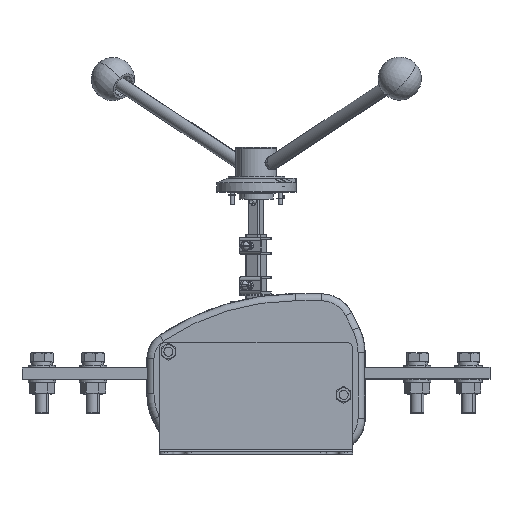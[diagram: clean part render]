
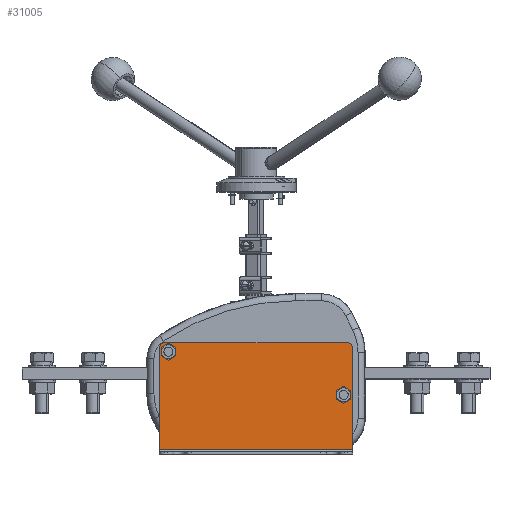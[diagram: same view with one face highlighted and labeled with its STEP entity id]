
A CAD part, top view. The second image highlights one B-rep face of the part: STEP entity #31005.
In plain terms, the highlighted planar face has unit normal (0, 0, 1).
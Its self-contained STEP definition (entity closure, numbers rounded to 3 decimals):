
#8137 = DIRECTION ( 'NONE',  ( 0., 0., 1. ) ) ;
#8685 = DIRECTION ( 'NONE',  ( 1., 0., 0. ) ) ;
#8686 = VECTOR ( 'NONE', #8685, 1000. ) ;
#8687 = CARTESIAN_POINT ( 'NONE',  ( -85., -67., 46.7 ) ) ;
#8695 = LINE ( 'NONE', #8687, #8686 ) ;
#8739 = CARTESIAN_POINT ( 'NONE',  ( 85., -67., 46.7 ) ) ;
#8740 = CARTESIAN_POINT ( 'NONE',  ( -85., -67., 46.7 ) ) ;
#8869 = DIRECTION ( 'NONE',  ( 0., 1., 0. ) ) ;
#8919 = CARTESIAN_POINT ( 'NONE',  ( 85., 22., 46.7 ) ) ;
#9071 = CARTESIAN_POINT ( 'NONE',  ( 77., -23.25, 46.7 ) ) ;
#9091 = CIRCLE ( 'NONE', #9172, 4.25 ) ;
#9092 = CARTESIAN_POINT ( 'NONE',  ( -80., 22., 46.7 ) ) ;
#9096 = CARTESIAN_POINT ( 'NONE',  ( -80., 27., 46.7 ) ) ;
#9106 = DIRECTION ( 'NONE',  ( 0., -1., 0. ) ) ;
#9107 = VECTOR ( 'NONE', #9106, 1000. ) ;
#9108 = CARTESIAN_POINT ( 'NONE',  ( -85., 27., 46.7 ) ) ;
#9109 = LINE ( 'NONE', #9108, #9107 ) ;
#9111 = CARTESIAN_POINT ( 'NONE',  ( 80., 27., 46.7 ) ) ;
#9119 = CARTESIAN_POINT ( 'NONE',  ( -85., 22., 46.7 ) ) ;
#9121 = CIRCLE ( 'NONE', #9176, 4.25 ) ;
#9122 = CARTESIAN_POINT ( 'NONE',  ( -77., 19., 46.7 ) ) ;
#9123 = CARTESIAN_POINT ( 'NONE',  ( -77., 14.75, 46.7 ) ) ;
#9124 = DIRECTION ( 'NONE',  ( 0., 1., 0. ) ) ;
#9125 = DIRECTION ( 'NONE',  ( 0., 0., 1. ) ) ;
#9133 = AXIS2_PLACEMENT_3D ( 'NONE', #9092, #9125, #9124 ) ;
#9138 = CIRCLE ( 'NONE', #9133, 5. ) ;
#9152 = DIRECTION ( 'NONE',  ( 0., -1., 0. ) ) ;
#9153 = DIRECTION ( 'NONE',  ( 0., -1., 0. ) ) ;
#9154 = VECTOR ( 'NONE', #9153, 1000. ) ;
#9155 = CARTESIAN_POINT ( 'NONE',  ( 85., 27., 46.7 ) ) ;
#9156 = LINE ( 'NONE', #9155, #9154 ) ;
#9158 = DIRECTION ( 'NONE',  ( 0., 1., 0. ) ) ;
#9159 = DIRECTION ( 'NONE',  ( 0., 0., 1. ) ) ;
#9160 = CARTESIAN_POINT ( 'NONE',  ( -77., 19., 46.7 ) ) ;
#9161 = AXIS2_PLACEMENT_3D ( 'NONE', #9160, #9159, #9158 ) ;
#9162 = CIRCLE ( 'NONE', #9161, 4.25 ) ;
#9163 = CARTESIAN_POINT ( 'NONE',  ( 80., 22., 46.7 ) ) ;
#9164 = AXIS2_PLACEMENT_3D ( 'NONE', #9163, #8137, #8869 ) ;
#9165 = CIRCLE ( 'NONE', #9164, 5. ) ;
#9166 = DIRECTION ( 'NONE',  ( 0., 1., 0. ) ) ;
#9167 = CARTESIAN_POINT ( 'NONE',  ( -77., 23.25, 46.7 ) ) ;
#9168 = DIRECTION ( 'NONE',  ( 0., 0., 1. ) ) ;
#9169 = DIRECTION ( 'NONE',  ( 0., -1., 0. ) ) ;
#9170 = DIRECTION ( 'NONE',  ( 0., 0., 1. ) ) ;
#9171 = CARTESIAN_POINT ( 'NONE',  ( 77., -19., 46.7 ) ) ;
#9172 = AXIS2_PLACEMENT_3D ( 'NONE', #9171, #9170, #9169 ) ;
#9173 = DIRECTION ( 'NONE',  ( 0., 0., 1. ) ) ;
#9174 = CARTESIAN_POINT ( 'NONE',  ( 77., -19., 46.7 ) ) ;
#9175 = AXIS2_PLACEMENT_3D ( 'NONE', #9174, #9173, #9152 ) ;
#9176 = AXIS2_PLACEMENT_3D ( 'NONE', #9122, #9168, #9166 ) ;
#9180 = CIRCLE ( 'NONE', #9175, 4.25 ) ;
#9192 = DIRECTION ( 'NONE',  ( 0., 1., 0. ) ) ;
#9197 = FACE_OUTER_BOUND ( 'NONE', #30982, .T. ) ;
#9198 = DIRECTION ( 'NONE',  ( 1., 0., 0. ) ) ;
#9199 = VECTOR ( 'NONE', #9198, 1000. ) ;
#9200 = FACE_BOUND ( 'NONE', #31007, .T. ) ;
#9202 = CARTESIAN_POINT ( 'NONE',  ( 77., -14.75, 46.7 ) ) ;
#9203 = CARTESIAN_POINT ( 'NONE',  ( -85., 27., 46.7 ) ) ;
#9204 = LINE ( 'NONE', #9203, #9199 ) ;
#9205 = CARTESIAN_POINT ( 'NONE',  ( -85., 27., 46.7 ) ) ;
#9206 = PLANE ( 'NONE',  #9214 ) ;
#9211 = FACE_BOUND ( 'NONE', #30998, .T. ) ;
#9212 = DIRECTION ( 'NONE',  ( 0., 0., 1. ) ) ;
#9214 = AXIS2_PLACEMENT_3D ( 'NONE', #9205, #9212, #9192 ) ;
#30483 = EDGE_CURVE ( 'NONE', #30497, #30500, #8695, .T. ) ;
#30497 = VERTEX_POINT ( 'NONE', #8740 ) ;
#30500 = VERTEX_POINT ( 'NONE', #8739 ) ;
#30884 = ORIENTED_EDGE ( 'NONE', *, *, #30947, .T. ) ;
#30888 = VERTEX_POINT ( 'NONE', #9071 ) ;
#30896 = VERTEX_POINT ( 'NONE', #9111 ) ;
#30899 = EDGE_CURVE ( 'NONE', #30903, #30497, #9109, .T. ) ;
#30903 = VERTEX_POINT ( 'NONE', #9119 ) ;
#30914 = VERTEX_POINT ( 'NONE', #9096 ) ;
#30922 = ORIENTED_EDGE ( 'NONE', *, *, #30967, .F. ) ;
#30947 = EDGE_CURVE ( 'NONE', #30914, #30903, #9138, .T. ) ;
#30952 = ORIENTED_EDGE ( 'NONE', *, *, #31002, .F. ) ;
#30958 = ORIENTED_EDGE ( 'NONE', *, *, #30483, .T. ) ;
#30966 = ORIENTED_EDGE ( 'NONE', *, *, #30987, .F. ) ;
#30967 = EDGE_CURVE ( 'NONE', #30888, #31006, #9091, .T. ) ;
#30968 = EDGE_CURVE ( 'NONE', #30970, #30969, #9121, .T. ) ;
#30969 = VERTEX_POINT ( 'NONE', #9123 ) ;
#30970 = VERTEX_POINT ( 'NONE', #9167 ) ;
#30971 = ORIENTED_EDGE ( 'NONE', *, *, #30968, .F. ) ;
#30972 = ORIENTED_EDGE ( 'NONE', *, *, #30973, .F. ) ;
#30973 = EDGE_CURVE ( 'NONE', #30969, #30970, #9162, .T. ) ;
#30975 = EDGE_CURVE ( 'NONE', #30984, #30500, #9156, .T. ) ;
#30979 = ORIENTED_EDGE ( 'NONE', *, *, #30975, .F. ) ;
#30982 = EDGE_LOOP ( 'NONE', ( #30979, #31085, #30952, #30884, #31004, #30958 ) ) ;
#30984 = VERTEX_POINT ( 'NONE', #8919 ) ;
#30987 = EDGE_CURVE ( 'NONE', #31006, #30888, #9180, .T. ) ;
#30992 = EDGE_CURVE ( 'NONE', #30984, #30896, #9165, .T. ) ;
#30998 = EDGE_LOOP ( 'NONE', ( #30922, #30966 ) ) ;
#31002 = EDGE_CURVE ( 'NONE', #30914, #30896, #9204, .T. ) ;
#31004 = ORIENTED_EDGE ( 'NONE', *, *, #30899, .T. ) ;
#31005 = ADVANCED_FACE ( 'NONE', ( #9211, #9200, #9197 ), #9206, .T. ) ;
#31006 = VERTEX_POINT ( 'NONE', #9202 ) ;
#31007 = EDGE_LOOP ( 'NONE', ( #30971, #30972 ) ) ;
#31085 = ORIENTED_EDGE ( 'NONE', *, *, #30992, .T. ) ;
